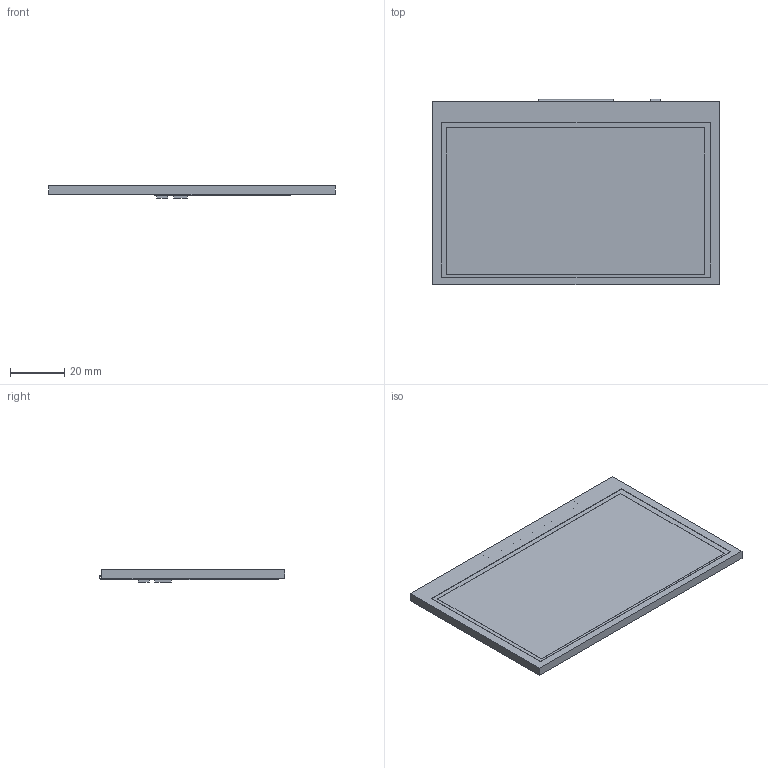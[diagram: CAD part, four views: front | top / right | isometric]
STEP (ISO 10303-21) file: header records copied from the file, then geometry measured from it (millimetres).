
FILE_DESCRIPTION(/* description */ (''),/* implementation_level */ '2;1');
FILE_NAME(/* name */ '',/* time_stamp */ '2022-06-03T14:59:37+08:00',/* author */ (''),/* organization */ (''),/* preprocessor_version */ 'ST-DEVELOPER v11',/* originating_system */ 'SIEMENS PLM Software NX 7.5',/* authorisation */ '');
FILE_SCHEMA (('AP203_CONFIGURATION_CONTROLLED_3D_DESIGN_OF_MECHANICAL_PARTS_AND_ASSEMBLIES_MIM_LF'));
Length unit declared in the file: millimetre
Products named in the file (1): 3D_SDWa043T63N_stp
Bounding box: 105.42 x 68.13 x 4.65 mm (x, y, z)
Volume: 22861.1 mm3; surface area: 34473 mm2
Topology: 40 solids, 40 shells, 283 faces, 600 edges, 401 vertices
Faces by surface type: plane 267, cylinder 16
Entity records: 9569 total; most frequent: CARTESIAN_POINT 1288, ORIENTED_EDGE 1200, DIRECTION 1199, EDGE_CURVE 600, LINE 567, VECTOR 567, VERTEX_POINT 400, AXIS2_PLACEMENT_3D 316
